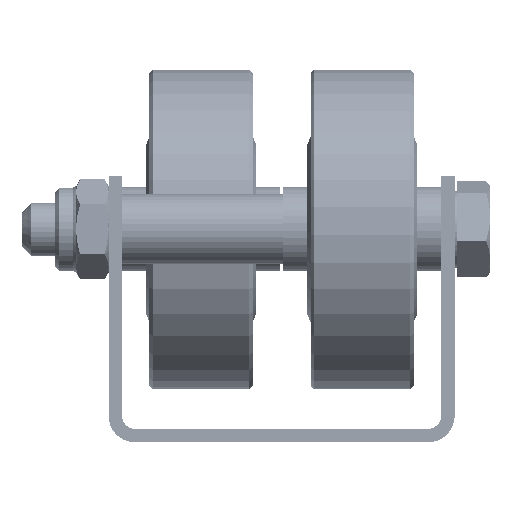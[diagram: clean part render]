
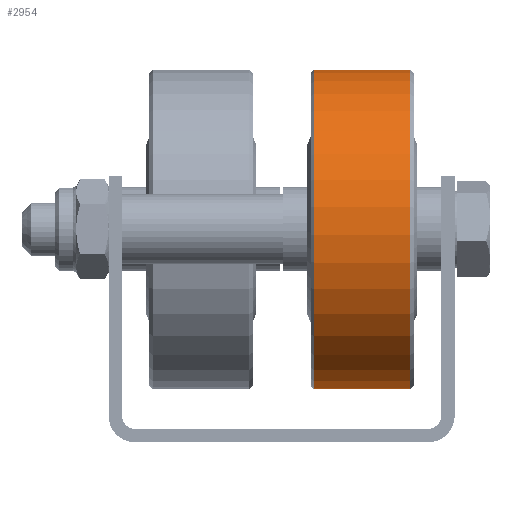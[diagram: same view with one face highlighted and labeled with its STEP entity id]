
A CAD part, front view. The second image highlights one B-rep face of the part: STEP entity #2954.
In plain terms, the highlighted cylindrical face has radius 24 mm (diameter 48 mm), a full revolution.
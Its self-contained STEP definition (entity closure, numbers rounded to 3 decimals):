
#2954 = ADVANCED_FACE( '', ( #4693, #4694 ), #4695, .T. );
#4693 = FACE_OUTER_BOUND( '', #5903, .T. );
#4694 = FACE_OUTER_BOUND( '', #5904, .T. );
#4695 = CYLINDRICAL_SURFACE( '', #5905, 24. );
#5903 = EDGE_LOOP( '', ( #7549 ) );
#5904 = EDGE_LOOP( '', ( #7550 ) );
#5905 = AXIS2_PLACEMENT_3D( '', #7551, #7552, #7553 );
#7549 = ORIENTED_EDGE( '', *, *, #8559, .T. );
#7550 = ORIENTED_EDGE( '', *, *, #8702, .T. );
#7551 = CARTESIAN_POINT( '', ( 0., -7.75, 0. ) );
#7552 = DIRECTION( '', ( 0., -1., 0. ) );
#7553 = DIRECTION( '', ( 0., 0., 1. ) );
#8559 = EDGE_CURVE( '', #9516, #9516, #9517, .F. );
#8702 = EDGE_CURVE( '', #9739, #9739, #9740, .T. );
#9516 = VERTEX_POINT( '', #10814 );
#9517 = CIRCLE( '', #10815, 24. );
#9739 = VERTEX_POINT( '', #11086 );
#9740 = CIRCLE( '', #11087, 24. );
#10814 = CARTESIAN_POINT( '', ( 0., 7.25, 24. ) );
#10815 = AXIS2_PLACEMENT_3D( '', #12003, #12004, #12005 );
#11086 = CARTESIAN_POINT( '', ( 0., -7.25, 24. ) );
#11087 = AXIS2_PLACEMENT_3D( '', #12249, #12250, #12251 );
#12003 = CARTESIAN_POINT( '', ( 0., 7.25, 0. ) );
#12004 = DIRECTION( '', ( 0., 1., 0. ) );
#12005 = DIRECTION( '', ( 0., 0., 1. ) );
#12249 = CARTESIAN_POINT( '', ( 0., -7.25, 0. ) );
#12250 = DIRECTION( '', ( 0., 1., 0. ) );
#12251 = DIRECTION( '', ( 0., 0., 1. ) );
